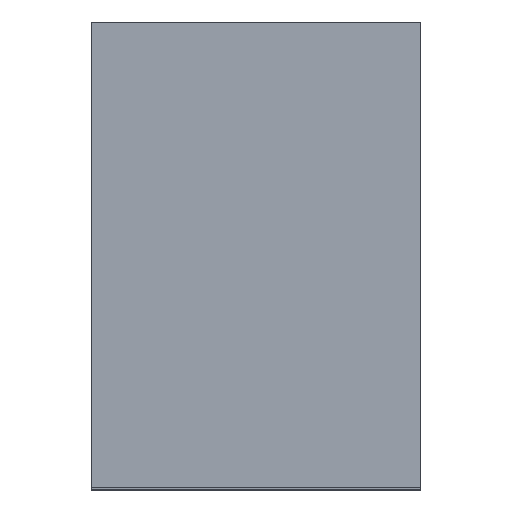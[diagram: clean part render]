
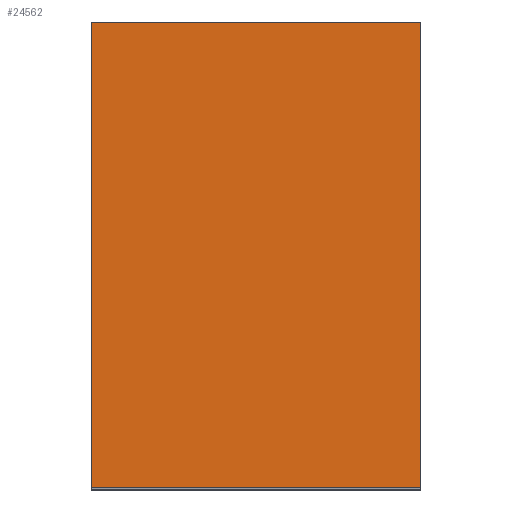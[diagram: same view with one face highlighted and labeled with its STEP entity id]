
A CAD part, top view. The second image highlights one B-rep face of the part: STEP entity #24562.
In plain terms, the highlighted planar face has unit normal (0, 0, 1).
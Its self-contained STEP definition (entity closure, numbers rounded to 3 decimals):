
#6672 = DIRECTION ( 'NONE',  ( -1., 0., 0. ) ) ;
#9407 = CARTESIAN_POINT ( 'NONE',  ( 0., 0., 19. ) ) ;
#11657 = EDGE_CURVE ( 'NONE', #80444, #17115, #203866, .T. ) ;
#17115 = VERTEX_POINT ( 'NONE', #107131 ) ;
#20886 = ORIENTED_EDGE ( 'NONE', *, *, #81667, .F. ) ;
#24562 = ADVANCED_FACE ( 'NONE', ( #183336 ), #55138, .F. ) ;
#31792 = CARTESIAN_POINT ( 'NONE',  ( -21.5, 12., 19. ) ) ;
#35214 = AXIS2_PLACEMENT_3D ( 'NONE', #88223, #200622, #6672 ) ;
#37587 = VERTEX_POINT ( 'NONE', #177044 ) ;
#42793 = CARTESIAN_POINT ( 'NONE',  ( -13., 12., 19. ) ) ;
#45697 = CARTESIAN_POINT ( 'NONE',  ( 0., 12., 19. ) ) ;
#51532 = DIRECTION ( 'NONE',  ( 1., 0., 0. ) ) ;
#55138 = PLANE ( 'NONE',  #35214 ) ;
#58478 = CARTESIAN_POINT ( 'NONE',  ( -21.5, 12., 19. ) ) ;
#62569 = DIRECTION ( 'NONE',  ( 1., 0., 0. ) ) ;
#63649 = VECTOR ( 'NONE', #62569, 1000. ) ;
#66929 = DIRECTION ( 'NONE',  ( 0., -1., 0. ) ) ;
#80444 = VERTEX_POINT ( 'NONE', #58478 ) ;
#81667 = EDGE_CURVE ( 'NONE', #88319, #37587, #85106, .T. ) ;
#85106 = LINE ( 'NONE', #177156, #165455 ) ;
#88223 = CARTESIAN_POINT ( 'NONE',  ( 0., 12., 19. ) ) ;
#88319 = VERTEX_POINT ( 'NONE', #42793 ) ;
#107131 = CARTESIAN_POINT ( 'NONE',  ( -21.5, 0., 19. ) ) ;
#109035 = EDGE_LOOP ( 'NONE', ( #180641, #20886, #126844, #176967 ) ) ;
#111118 = DIRECTION ( 'NONE',  ( 0., -1., 0. ) ) ;
#126844 = ORIENTED_EDGE ( 'NONE', *, *, #128321, .F. ) ;
#128321 = EDGE_CURVE ( 'NONE', #80444, #88319, #169351, .T. ) ;
#143524 = VECTOR ( 'NONE', #66929, 1000. ) ;
#164370 = LINE ( 'NONE', #9407, #179529 ) ;
#165455 = VECTOR ( 'NONE', #111118, 1000. ) ;
#169351 = LINE ( 'NONE', #45697, #63649 ) ;
#176967 = ORIENTED_EDGE ( 'NONE', *, *, #11657, .T. ) ;
#177044 = CARTESIAN_POINT ( 'NONE',  ( -13., 0., 19. ) ) ;
#177156 = CARTESIAN_POINT ( 'NONE',  ( -13., 12., 19. ) ) ;
#179529 = VECTOR ( 'NONE', #51532, 1000. ) ;
#180641 = ORIENTED_EDGE ( 'NONE', *, *, #198592, .T. ) ;
#183336 = FACE_OUTER_BOUND ( 'NONE', #109035, .T. ) ;
#198592 = EDGE_CURVE ( 'NONE', #17115, #37587, #164370, .T. ) ;
#200622 = DIRECTION ( 'NONE',  ( 0., 0., -1. ) ) ;
#203866 = LINE ( 'NONE', #31792, #143524 ) ;
